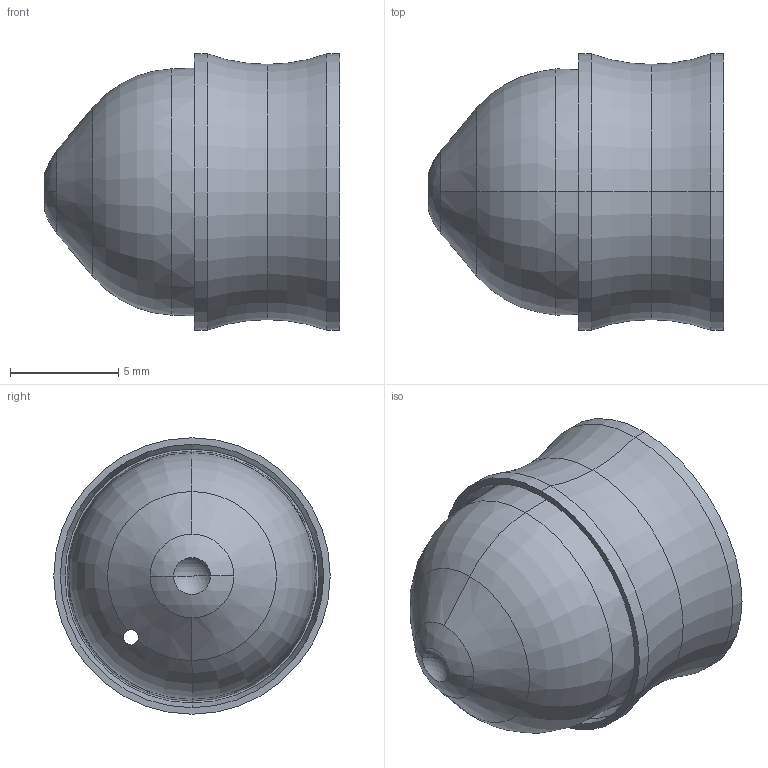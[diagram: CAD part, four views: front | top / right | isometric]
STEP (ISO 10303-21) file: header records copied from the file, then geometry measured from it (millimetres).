
FILE_DESCRIPTION (( 'STEP AP214' ), '1' );
FILE_NAME ('8001507_CUS.STEP', '2022-07-07T14:30:54', ( '' ), ( '' ), 'SwSTEP 2.0', 'SolidWorks 2020', '' );
FILE_SCHEMA (( 'AUTOMOTIVE_DESIGN' ));
Length unit declared in the file: millimetre
Products named in the file (1): 8001507_CUS
Bounding box: 13.63 x 12.76 x 12.76 mm (x, y, z)
Volume: 425.5 mm3; surface area: 1149.6 mm2
Topology: 1 solids, 1 shells, 62 faces, 153 edges, 95 vertices
Faces by surface type: plane 20, cylinder 14, torus 12, cone 12, sphere 4
Entity records: 1974 total; most frequent: CARTESIAN_POINT 449, DIRECTION 330, ORIENTED_EDGE 306, EDGE_CURVE 153, AXIS2_PLACEMENT_3D 136, VERTEX_POINT 95, CIRCLE 73, EDGE_LOOP 66
